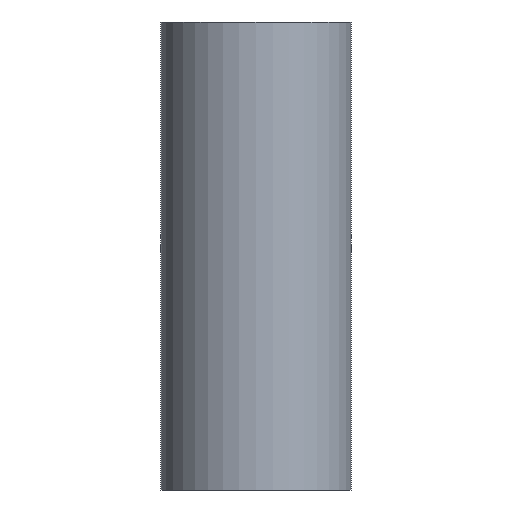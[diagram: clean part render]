
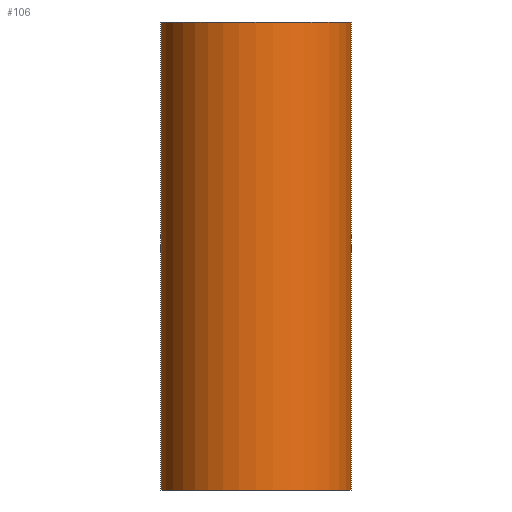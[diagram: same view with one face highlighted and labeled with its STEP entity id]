
A CAD part, left-side view. The second image highlights one B-rep face of the part: STEP entity #106.
In plain terms, the highlighted cylindrical face has radius 55 mm (diameter 110 mm), a full revolution.
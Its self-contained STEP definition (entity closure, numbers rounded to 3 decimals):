
#23=FACE_BOUND('',#47,.T.);
#24=FACE_BOUND('',#48,.T.);
#27=B_SPLINE_CURVE_WITH_KNOTS('',3,(#269,#270,#271,#272,#273,#274,#275,
#276,#277,#278,#279,#280,#281,#282,#283,#284,#285,#286,#287,#288,#289,#290,
#291,#292,#293,#294,#295,#296,#297,#298,#299,#300,#301,#302,#303,#304,#305,
#306,#307,#308,#309,#310,#311,#312,#313,#314,#315,#316,#317,#318,#319,#320,
#321,#322,#323,#324,#325,#326,#327,#328,#329,#330,#331,#332,#333,#334,#335,
#336,#337,#338,#339,#340,#341,#342),.UNSPECIFIED.,.T.,.F.,(4,2,2,2,2,2,
2,2,2,2,2,2,2,2,2,2,2,2,2,2,2,2,2,2,2,2,2,2,2,2,2,2,2,2,2,2,4),(0.,1.431,
2.862,4.294,5.725,7.21,8.695,
9.491,9.889,10.287,10.684,11.082,
11.878,13.363,14.848,16.279,17.711,
19.142,20.573,21.497,21.96,22.422,
23.346,24.27,25.142,26.014,26.886,
27.758,28.629,29.501,30.373,31.245,
32.169,33.093,33.556,34.018,34.942),
 .UNSPECIFIED.);
#33=FACE_OUTER_BOUND('',#46,.T.);
#46=EDGE_LOOP('',(#84));
#47=EDGE_LOOP('',(#85));
#48=EDGE_LOOP('',(#86));
#55=CIRCLE('',#137,55.);
#56=CIRCLE('',#139,55.);
#62=VERTEX_POINT('',#268);
#63=VERTEX_POINT('',#345);
#64=VERTEX_POINT('',#348);
#70=EDGE_CURVE('',#62,#62,#27,.T.);
#71=EDGE_CURVE('',#63,#63,#55,.T.);
#72=EDGE_CURVE('',#64,#64,#56,.T.);
#84=ORIENTED_EDGE('',*,*,#71,.T.);
#85=ORIENTED_EDGE('',*,*,#70,.T.);
#86=ORIENTED_EDGE('',*,*,#72,.F.);
#92=CYLINDRICAL_SURFACE('',#138,55.);
#106=ADVANCED_FACE('',(#33,#23,#24),#92,.T.);
#137=AXIS2_PLACEMENT_3D('',#346,#161,#162);
#138=AXIS2_PLACEMENT_3D('',#347,#163,#164);
#139=AXIS2_PLACEMENT_3D('',#349,#165,#166);
#161=DIRECTION('center_axis',(0.,0.,-1.));
#162=DIRECTION('ref_axis',(1.,0.,0.));
#163=DIRECTION('center_axis',(0.,0.,-1.));
#164=DIRECTION('ref_axis',(-1.,0.,0.));
#165=DIRECTION('center_axis',(0.,0.,-1.));
#166=DIRECTION('ref_axis',(1.,0.,0.));
#268=CARTESIAN_POINT('',(31.623,-45.,121.623));
#269=CARTESIAN_POINT('Ctrl Pts',(31.623,-45.,121.623));
#270=CARTESIAN_POINT('Ctrl Pts',(31.623,-45.,126.394));
#271=CARTESIAN_POINT('Ctrl Pts',(32.153,-44.634,131.265));
#272=CARTESIAN_POINT('Ctrl Pts',(33.79,-43.409,141.076));
#273=CARTESIAN_POINT('Ctrl Pts',(34.898,-42.542,146.015));
#274=CARTESIAN_POINT('Ctrl Pts',(37.387,-40.372,155.773));
#275=CARTESIAN_POINT('Ctrl Pts',(38.769,-39.067,160.588));
#276=CARTESIAN_POINT('Ctrl Pts',(41.585,-36.055,169.862));
#277=CARTESIAN_POINT('Ctrl Pts',(43.021,-34.346,174.32));
#278=CARTESIAN_POINT('Ctrl Pts',(45.832,-30.501,182.794));
#279=CARTESIAN_POINT('Ctrl Pts',(47.41,-28.07,187.397));
#280=CARTESIAN_POINT('Ctrl Pts',(50.397,-22.266,195.922));
#281=CARTESIAN_POINT('Ctrl Pts',(51.804,-18.892,199.844));
#282=CARTESIAN_POINT('Ctrl Pts',(53.467,-13.068,204.44));
#283=CARTESIAN_POINT('Ctrl Pts',(54.022,-10.654,205.966));
#284=CARTESIAN_POINT('Ctrl Pts',(54.6,-6.751,207.547));
#285=CARTESIAN_POINT('Ctrl Pts',(54.751,-5.403,207.96));
#286=CARTESIAN_POINT('Ctrl Pts',(54.951,-2.69,208.506));
#287=CARTESIAN_POINT('Ctrl Pts',(55.,-1.326,208.64));
#288=CARTESIAN_POINT('Ctrl Pts',(55.,1.326,208.64));
#289=CARTESIAN_POINT('Ctrl Pts',(54.951,2.69,208.506));
#290=CARTESIAN_POINT('Ctrl Pts',(54.751,5.403,207.96));
#291=CARTESIAN_POINT('Ctrl Pts',(54.6,6.751,207.547));
#292=CARTESIAN_POINT('Ctrl Pts',(54.022,10.654,205.966));
#293=CARTESIAN_POINT('Ctrl Pts',(53.467,13.068,204.44));
#294=CARTESIAN_POINT('Ctrl Pts',(51.804,18.892,199.844));
#295=CARTESIAN_POINT('Ctrl Pts',(50.397,22.266,195.922));
#296=CARTESIAN_POINT('Ctrl Pts',(47.41,28.07,187.397));
#297=CARTESIAN_POINT('Ctrl Pts',(45.832,30.501,182.794));
#298=CARTESIAN_POINT('Ctrl Pts',(43.021,34.346,174.32));
#299=CARTESIAN_POINT('Ctrl Pts',(41.585,36.055,169.862));
#300=CARTESIAN_POINT('Ctrl Pts',(38.769,39.067,160.588));
#301=CARTESIAN_POINT('Ctrl Pts',(37.387,40.372,155.773));
#302=CARTESIAN_POINT('Ctrl Pts',(34.898,42.542,146.015));
#303=CARTESIAN_POINT('Ctrl Pts',(33.79,43.409,141.076));
#304=CARTESIAN_POINT('Ctrl Pts',(32.153,44.634,131.265));
#305=CARTESIAN_POINT('Ctrl Pts',(31.623,45.,126.394));
#306=CARTESIAN_POINT('Ctrl Pts',(31.623,45.,118.542));
#307=CARTESIAN_POINT('Ctrl Pts',(31.855,44.841,115.341));
#308=CARTESIAN_POINT('Ctrl Pts',(32.725,44.207,110.681));
#309=CARTESIAN_POINT('Ctrl Pts',(33.1,43.928,109.15));
#310=CARTESIAN_POINT('Ctrl Pts',(34.021,43.219,106.183));
#311=CARTESIAN_POINT('Ctrl Pts',(34.566,42.788,104.747));
#312=CARTESIAN_POINT('Ctrl Pts',(36.412,41.252,100.637));
#313=CARTESIAN_POINT('Ctrl Pts',(37.936,39.89,98.145));
#314=CARTESIAN_POINT('Ctrl Pts',(41.155,36.56,93.783));
#315=CARTESIAN_POINT('Ctrl Pts',(42.841,34.593,91.906));
#316=CARTESIAN_POINT('Ctrl Pts',(45.872,30.446,88.83));
#317=CARTESIAN_POINT('Ctrl Pts',(47.326,28.164,87.506));
#318=CARTESIAN_POINT('Ctrl Pts',(49.958,23.177,85.24));
#319=CARTESIAN_POINT('Ctrl Pts',(51.135,20.473,84.296));
#320=CARTESIAN_POINT('Ctrl Pts',(53.05,14.818,82.803));
#321=CARTESIAN_POINT('Ctrl Pts',(53.79,11.863,82.251));
#322=CARTESIAN_POINT('Ctrl Pts',(54.765,5.906,81.53));
#323=CARTESIAN_POINT('Ctrl Pts',(55.,2.906,81.36));
#324=CARTESIAN_POINT('Ctrl Pts',(55.,-2.906,81.36));
#325=CARTESIAN_POINT('Ctrl Pts',(54.765,-5.906,81.53));
#326=CARTESIAN_POINT('Ctrl Pts',(53.79,-11.863,82.251));
#327=CARTESIAN_POINT('Ctrl Pts',(53.05,-14.818,82.803));
#328=CARTESIAN_POINT('Ctrl Pts',(51.135,-20.473,84.296));
#329=CARTESIAN_POINT('Ctrl Pts',(49.958,-23.177,85.24));
#330=CARTESIAN_POINT('Ctrl Pts',(47.326,-28.164,87.506));
#331=CARTESIAN_POINT('Ctrl Pts',(45.872,-30.446,88.83));
#332=CARTESIAN_POINT('Ctrl Pts',(42.841,-34.593,91.906));
#333=CARTESIAN_POINT('Ctrl Pts',(41.155,-36.56,93.783));
#334=CARTESIAN_POINT('Ctrl Pts',(37.936,-39.89,98.145));
#335=CARTESIAN_POINT('Ctrl Pts',(36.412,-41.252,100.637));
#336=CARTESIAN_POINT('Ctrl Pts',(34.566,-42.788,104.747));
#337=CARTESIAN_POINT('Ctrl Pts',(34.021,-43.219,106.183));
#338=CARTESIAN_POINT('Ctrl Pts',(33.1,-43.928,109.15));
#339=CARTESIAN_POINT('Ctrl Pts',(32.725,-44.207,110.681));
#340=CARTESIAN_POINT('Ctrl Pts',(31.855,-44.841,115.341));
#341=CARTESIAN_POINT('Ctrl Pts',(31.623,-45.,118.542));
#342=CARTESIAN_POINT('Ctrl Pts',(31.623,-45.,121.623));
#345=CARTESIAN_POINT('',(-55.,0.,270.));
#346=CARTESIAN_POINT('Origin',(0.,0.,270.));
#347=CARTESIAN_POINT('Origin',(0.,0.,135.));
#348=CARTESIAN_POINT('',(-55.,0.,0.));
#349=CARTESIAN_POINT('Origin',(0.,0.,0.));
